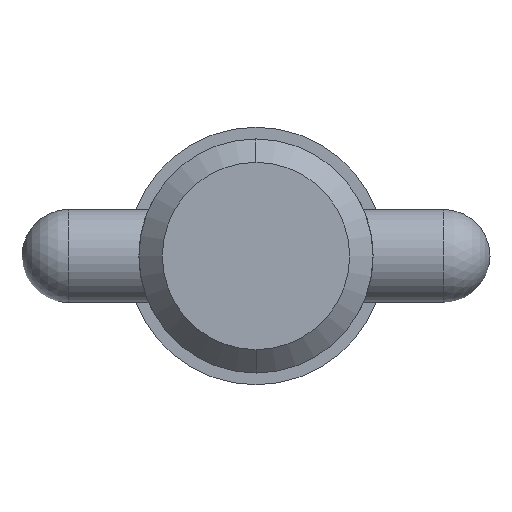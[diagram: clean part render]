
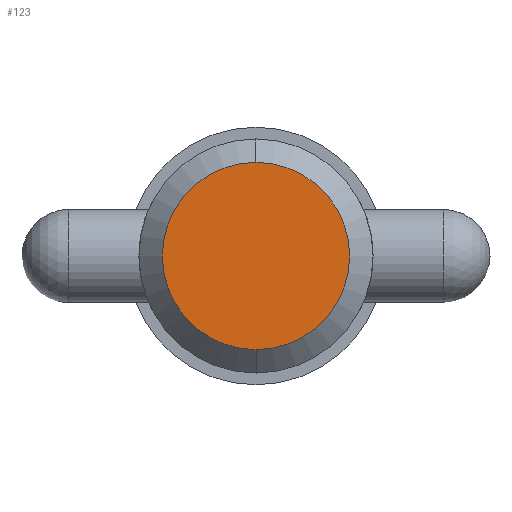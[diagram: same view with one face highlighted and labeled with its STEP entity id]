
A CAD part, left-side view. The second image highlights one B-rep face of the part: STEP entity #123.
In plain terms, the highlighted planar face has unit normal (-1, 0, 0).
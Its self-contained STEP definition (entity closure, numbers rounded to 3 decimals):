
#2 = CIRCLE ( 'NONE', #209, 6.352 ) ;
#28 = CARTESIAN_POINT ( 'NONE',  ( 0., 0., 0. ) ) ;
#34 = EDGE_CURVE ( 'NONE', #902, #739, #146, .T. ) ;
#97 = ORIENTED_EDGE ( 'NONE', *, *, #538, .F. ) ;
#123 = ADVANCED_FACE ( 'NONE', ( #606 ), #609, .T. ) ;
#146 = CIRCLE ( 'NONE', #543, 6.352 ) ;
#197 = DIRECTION ( 'NONE',  ( -1., 0., 0. ) ) ;
#209 = AXIS2_PLACEMENT_3D ( 'NONE', #287, #361, #539 ) ;
#285 = CARTESIAN_POINT ( 'NONE',  ( 0., 0., -6.352 ) ) ;
#287 = CARTESIAN_POINT ( 'NONE',  ( 0., 0., 0. ) ) ;
#361 = DIRECTION ( 'NONE',  ( 1., 0., 0. ) ) ;
#530 = DIRECTION ( 'NONE',  ( 0., 0., 1. ) ) ;
#538 = EDGE_CURVE ( 'NONE', #739, #902, #2, .T. ) ;
#539 = DIRECTION ( 'NONE',  ( 0., 0., -1. ) ) ;
#543 = AXIS2_PLACEMENT_3D ( 'NONE', #942, #1010, #937 ) ;
#588 = ORIENTED_EDGE ( 'NONE', *, *, #34, .F. ) ;
#606 = FACE_OUTER_BOUND ( 'NONE', #816, .T. ) ;
#609 = PLANE ( 'NONE',  #1059 ) ;
#739 = VERTEX_POINT ( 'NONE', #918 ) ;
#816 = EDGE_LOOP ( 'NONE', ( #588, #97 ) ) ;
#902 = VERTEX_POINT ( 'NONE', #285 ) ;
#918 = CARTESIAN_POINT ( 'NONE',  ( 0., 0., 6.352 ) ) ;
#937 = DIRECTION ( 'NONE',  ( 0., 0., -1. ) ) ;
#942 = CARTESIAN_POINT ( 'NONE',  ( 0., 0., 0. ) ) ;
#1010 = DIRECTION ( 'NONE',  ( 1., 0., 0. ) ) ;
#1059 = AXIS2_PLACEMENT_3D ( 'NONE', #28, #197, #530 ) ;
